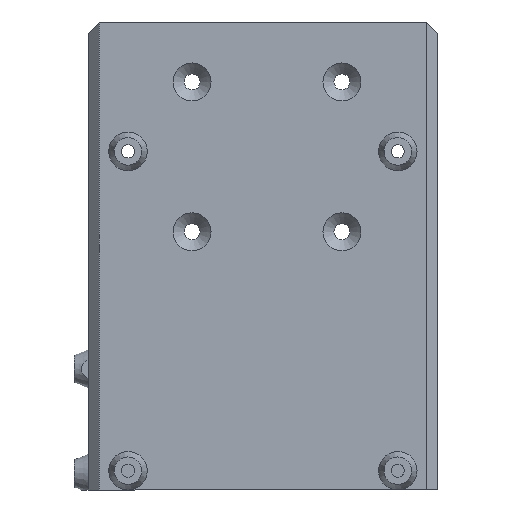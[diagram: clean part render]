
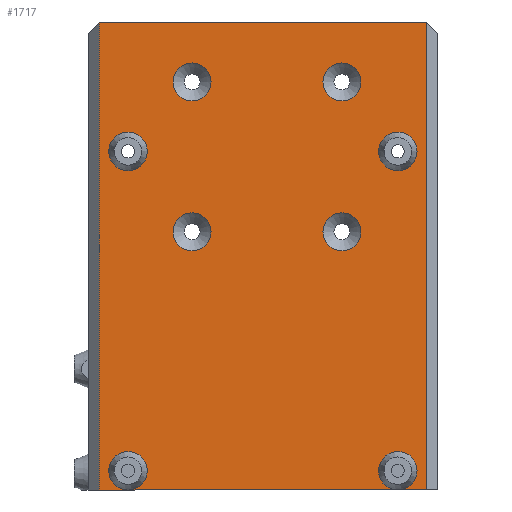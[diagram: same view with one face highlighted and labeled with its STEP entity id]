
A CAD part, left-side view. The second image highlights one B-rep face of the part: STEP entity #1717.
In plain terms, the highlighted planar face has unit normal (-1, 0, 0).
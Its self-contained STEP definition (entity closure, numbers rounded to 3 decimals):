
#91=FACE_BOUND('',#362,.T.);
#92=FACE_BOUND('',#363,.T.);
#93=FACE_BOUND('',#364,.T.);
#94=FACE_BOUND('',#365,.T.);
#95=FACE_BOUND('',#366,.T.);
#96=FACE_BOUND('',#367,.T.);
#168=CIRCLE('',#1872,3.5);
#169=CIRCLE('',#1873,3.5);
#170=CIRCLE('',#1874,3.5);
#171=CIRCLE('',#1875,3.5);
#172=CIRCLE('',#1876,3.45);
#173=CIRCLE('',#1877,3.45);
#174=CIRCLE('',#1878,3.5);
#175=CIRCLE('',#1879,3.5);
#176=CIRCLE('',#1880,3.45);
#177=CIRCLE('',#1881,3.45);
#250=FACE_OUTER_BOUND('',#361,.T.);
#361=EDGE_LOOP('',(#1368,#1369,#1370,#1371,#1372,#1373,#1374,#1375,#1376,
#1377));
#362=EDGE_LOOP('',(#1378));
#363=EDGE_LOOP('',(#1379));
#364=EDGE_LOOP('',(#1380));
#365=EDGE_LOOP('',(#1381));
#366=EDGE_LOOP('',(#1382));
#367=EDGE_LOOP('',(#1383));
#537=LINE('',#2795,#681);
#541=LINE('',#2802,#685);
#542=LINE('',#2804,#686);
#543=LINE('',#2806,#687);
#544=LINE('',#2812,#688);
#545=LINE('',#2817,#689);
#681=VECTOR('',#2233,10.);
#685=VECTOR('',#2241,10.);
#686=VECTOR('',#2242,10.);
#687=VECTOR('',#2243,10.);
#688=VECTOR('',#2248,10.);
#689=VECTOR('',#2253,10.);
#841=VERTEX_POINT('',#2793);
#842=VERTEX_POINT('',#2794);
#843=VERTEX_POINT('',#2801);
#844=VERTEX_POINT('',#2803);
#845=VERTEX_POINT('',#2805);
#846=VERTEX_POINT('',#2807);
#847=VERTEX_POINT('',#2809);
#848=VERTEX_POINT('',#2811);
#849=VERTEX_POINT('',#2813);
#850=VERTEX_POINT('',#2815);
#851=VERTEX_POINT('',#2818);
#852=VERTEX_POINT('',#2820);
#853=VERTEX_POINT('',#2822);
#854=VERTEX_POINT('',#2824);
#855=VERTEX_POINT('',#2826);
#856=VERTEX_POINT('',#2828);
#1041=EDGE_CURVE('',#841,#842,#537,.T.);
#1045=EDGE_CURVE('',#843,#841,#541,.T.);
#1046=EDGE_CURVE('',#844,#843,#542,.T.);
#1047=EDGE_CURVE('',#845,#844,#543,.T.);
#1048=EDGE_CURVE('',#846,#845,#168,.T.);
#1049=EDGE_CURVE('',#847,#846,#169,.T.);
#1050=EDGE_CURVE('',#848,#847,#544,.T.);
#1051=EDGE_CURVE('',#849,#848,#170,.T.);
#1052=EDGE_CURVE('',#850,#849,#171,.T.);
#1053=EDGE_CURVE('',#842,#850,#545,.T.);
#1054=EDGE_CURVE('',#851,#851,#172,.T.);
#1055=EDGE_CURVE('',#852,#852,#173,.T.);
#1056=EDGE_CURVE('',#853,#853,#174,.T.);
#1057=EDGE_CURVE('',#854,#854,#175,.T.);
#1058=EDGE_CURVE('',#855,#855,#176,.T.);
#1059=EDGE_CURVE('',#856,#856,#177,.T.);
#1368=ORIENTED_EDGE('',*,*,#1041,.F.);
#1369=ORIENTED_EDGE('',*,*,#1045,.F.);
#1370=ORIENTED_EDGE('',*,*,#1046,.F.);
#1371=ORIENTED_EDGE('',*,*,#1047,.F.);
#1372=ORIENTED_EDGE('',*,*,#1048,.F.);
#1373=ORIENTED_EDGE('',*,*,#1049,.F.);
#1374=ORIENTED_EDGE('',*,*,#1050,.F.);
#1375=ORIENTED_EDGE('',*,*,#1051,.F.);
#1376=ORIENTED_EDGE('',*,*,#1052,.F.);
#1377=ORIENTED_EDGE('',*,*,#1053,.F.);
#1378=ORIENTED_EDGE('',*,*,#1054,.F.);
#1379=ORIENTED_EDGE('',*,*,#1055,.F.);
#1380=ORIENTED_EDGE('',*,*,#1056,.F.);
#1381=ORIENTED_EDGE('',*,*,#1057,.F.);
#1382=ORIENTED_EDGE('',*,*,#1058,.F.);
#1383=ORIENTED_EDGE('',*,*,#1059,.F.);
#1658=PLANE('',#1871);
#1717=ADVANCED_FACE('',(#250,#91,#92,#93,#94,#95,#96),#1658,.T.);
#1871=AXIS2_PLACEMENT_3D('',#2800,#2239,#2240);
#1872=AXIS2_PLACEMENT_3D('',#2808,#2244,#2245);
#1873=AXIS2_PLACEMENT_3D('',#2810,#2246,#2247);
#1874=AXIS2_PLACEMENT_3D('',#2814,#2249,#2250);
#1875=AXIS2_PLACEMENT_3D('',#2816,#2251,#2252);
#1876=AXIS2_PLACEMENT_3D('',#2819,#2254,#2255);
#1877=AXIS2_PLACEMENT_3D('',#2821,#2256,#2257);
#1878=AXIS2_PLACEMENT_3D('',#2823,#2258,#2259);
#1879=AXIS2_PLACEMENT_3D('',#2825,#2260,#2261);
#1880=AXIS2_PLACEMENT_3D('',#2827,#2262,#2263);
#1881=AXIS2_PLACEMENT_3D('',#2829,#2264,#2265);
#2233=DIRECTION('',(0.,0.,-1.));
#2239=DIRECTION('center_axis',(-1.,0.,0.));
#2240=DIRECTION('ref_axis',(0.,-1.,0.));
#2241=DIRECTION('',(0.,-1.,0.));
#2242=DIRECTION('',(0.,0.,1.));
#2243=DIRECTION('',(0.,1.,0.));
#2244=DIRECTION('center_axis',(-1.,0.,0.));
#2245=DIRECTION('ref_axis',(0.,-1.,0.));
#2246=DIRECTION('center_axis',(-1.,0.,0.));
#2247=DIRECTION('ref_axis',(0.,-1.,0.));
#2248=DIRECTION('',(0.,1.,0.));
#2249=DIRECTION('center_axis',(-1.,0.,0.));
#2250=DIRECTION('ref_axis',(0.,-1.,0.));
#2251=DIRECTION('center_axis',(-1.,0.,0.));
#2252=DIRECTION('ref_axis',(0.,-1.,0.));
#2253=DIRECTION('',(0.,1.,0.));
#2254=DIRECTION('center_axis',(-1.,0.,0.));
#2255=DIRECTION('ref_axis',(0.,1.,0.));
#2256=DIRECTION('center_axis',(-1.,0.,0.));
#2257=DIRECTION('ref_axis',(0.,1.,0.));
#2258=DIRECTION('center_axis',(-1.,0.,0.));
#2259=DIRECTION('ref_axis',(0.,-1.,0.));
#2260=DIRECTION('center_axis',(-1.,0.,0.));
#2261=DIRECTION('ref_axis',(0.,-1.,0.));
#2262=DIRECTION('center_axis',(-1.,0.,0.));
#2263=DIRECTION('ref_axis',(0.,1.,0.));
#2264=DIRECTION('center_axis',(-1.,0.,0.));
#2265=DIRECTION('ref_axis',(0.,1.,0.));
#2793=CARTESIAN_POINT('',(-29.,-29.,111.67));
#2794=CARTESIAN_POINT('',(-29.,-29.,26.67));
#2795=CARTESIAN_POINT('',(-29.,-29.,26.67));
#2800=CARTESIAN_POINT('Origin',(-29.,31.,26.67));
#2801=CARTESIAN_POINT('',(-29.,30.5,111.67));
#2802=CARTESIAN_POINT('',(-29.,31.,111.67));
#2803=CARTESIAN_POINT('',(-29.,30.5,26.67));
#2804=CARTESIAN_POINT('',(-29.,30.5,26.67));
#2805=CARTESIAN_POINT('',(-29.,25.271,26.67));
#2806=CARTESIAN_POINT('',(-29.,-31.,26.67));
#2807=CARTESIAN_POINT('',(-29.,28.75,30.17));
#2808=CARTESIAN_POINT('Origin',(-29.,25.25,30.17));
#2809=CARTESIAN_POINT('',(-29.,25.229,26.67));
#2810=CARTESIAN_POINT('Origin',(-29.,25.25,30.17));
#2811=CARTESIAN_POINT('',(-29.,-23.729,26.67));
#2812=CARTESIAN_POINT('',(-29.,-31.,26.67));
#2813=CARTESIAN_POINT('',(-29.,-20.25,30.17));
#2814=CARTESIAN_POINT('Origin',(-29.,-23.75,30.17));
#2815=CARTESIAN_POINT('',(-29.,-23.771,26.67));
#2816=CARTESIAN_POINT('Origin',(-29.,-23.75,30.17));
#2817=CARTESIAN_POINT('',(-29.,-31.,26.67));
#2818=CARTESIAN_POINT('',(-29.,10.162,73.558));
#2819=CARTESIAN_POINT('Origin',(-29.,13.612,73.558));
#2820=CARTESIAN_POINT('',(-29.,-17.062,100.782));
#2821=CARTESIAN_POINT('Origin',(-29.,-13.612,100.782));
#2822=CARTESIAN_POINT('',(-29.,-20.25,88.17));
#2823=CARTESIAN_POINT('Origin',(-29.,-23.75,88.17));
#2824=CARTESIAN_POINT('',(-29.,28.75,88.17));
#2825=CARTESIAN_POINT('Origin',(-29.,25.25,88.17));
#2826=CARTESIAN_POINT('',(-29.,-17.062,73.558));
#2827=CARTESIAN_POINT('Origin',(-29.,-13.612,73.558));
#2828=CARTESIAN_POINT('',(-29.,10.162,100.782));
#2829=CARTESIAN_POINT('Origin',(-29.,13.612,100.782));
